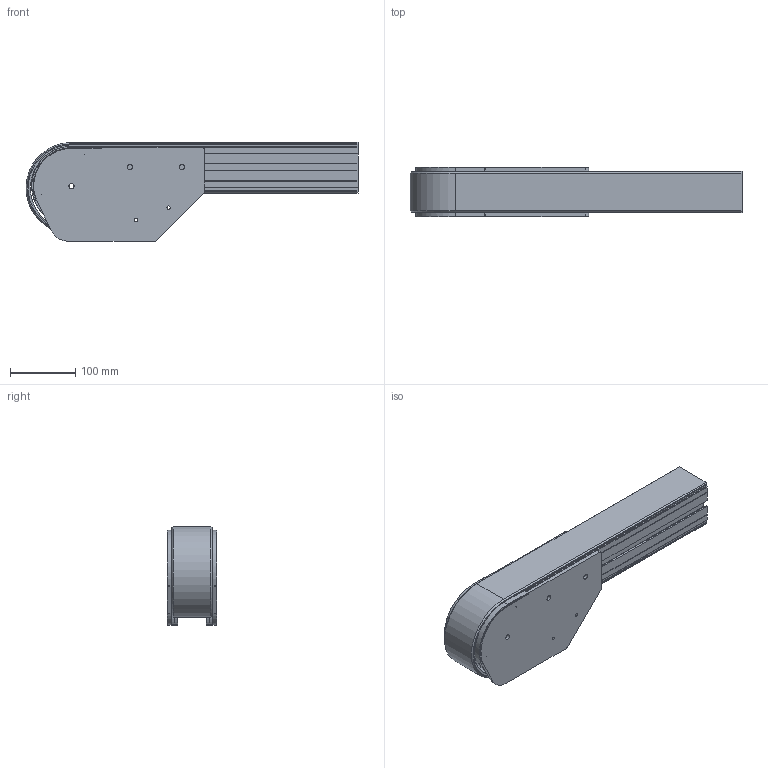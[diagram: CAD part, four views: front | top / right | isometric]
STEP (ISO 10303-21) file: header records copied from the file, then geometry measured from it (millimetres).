
FILE_DESCRIPTION(/* description */ ('IDLER UNIT SERIE 620'),/* implementation_level */ '2;1');
FILE_NAME(/* name */ '\\carryline.intra\privat\users\mathias\Desktop\Tillfälliga filer\620-4005.stp',/* time_stamp */ '2018-12-05T14:24:21+01:00',/* author */ ('ML'),/* organization */ (''),/* preprocessor_version */ 'ST-DEVELOPER v17',/* originating_system */ 'Autodesk Inventor 2018',/* authorisation */ '');
FILE_SCHEMA (('AUTOMOTIVE_DESIGN { 1 0 10303 214 3 1 1 }'));
Length unit declared in the file: millimetre
Products named in the file (9): 620-4005; Serie 620 Vändände; 620-1000+620-2000-01; 900-3054R; 900-3054L; 900-2150R; 900-2150L; 900-2121H; 900-2121V
Assembly tree (10 placements, depth 3):
  620-4005
    Serie 620 Vändände
      620-1000+620-2000-01
      900-3054R
      900-3054L
      900-2150R  x2
      900-2150L  x2
    900-2121H
    900-2121V
Bounding box: 509.91 x 76 x 152.15 mm (x, y, z)
Volume: 2467566.1 mm3; surface area: 414701.6 mm2
Topology: 9 solids, 9 shells, 487 faces, 1295 edges, 832 vertices
Faces by surface type: cylinder 237, plane 164, torus 36, cone 20, sphere 18, bspline 12
Full cylindrical faces by diameter (mm): 4 x4, 5 x12, 5.3 x4, 8 x6, 45 x2
Entity records: 13073 total; most frequent: CARTESIAN_POINT 2549, DIRECTION 2249, ORIENTED_EDGE 2046, EDGE_CURVE 1023, AXIS2_PLACEMENT_3D 856, VERTEX_POINT 652, LINE 537, VECTOR 537
